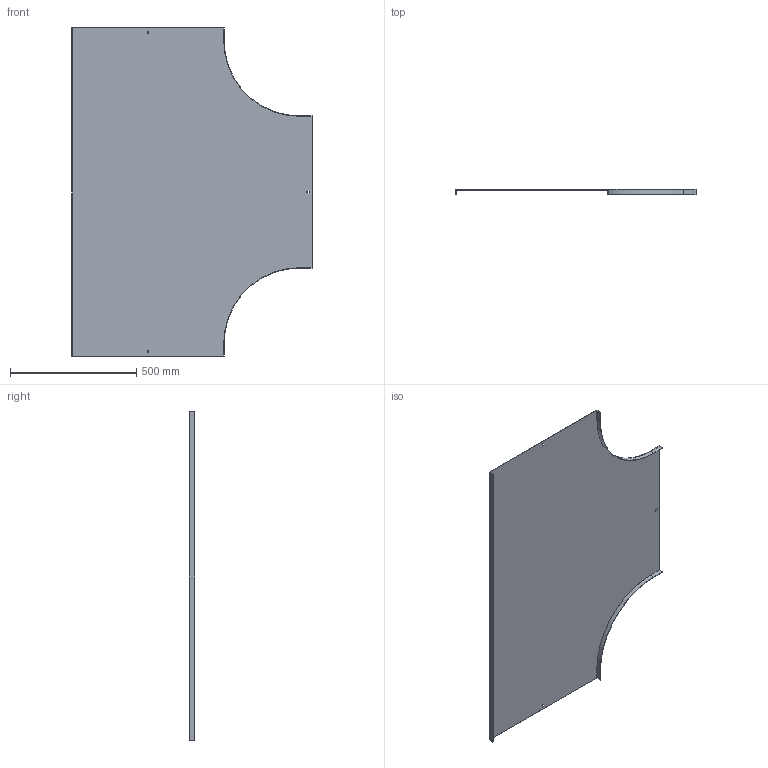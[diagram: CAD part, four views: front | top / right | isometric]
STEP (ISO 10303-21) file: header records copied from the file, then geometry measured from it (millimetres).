
FILE_DESCRIPTION (( 'STEP AP214' ), '1' );
FILE_NAME ('B2_15N3R600.step', '2025-02-21T12:07:14', ( '' ), ( '' ), 'SwSTEP 2.0', 'SolidWorks 2023', '' );
FILE_SCHEMA (( 'AUTOMOTIVE_DESIGN' ));
Length unit declared in the file: millimetre
Products named in the file (1): B2_15N3R600
Bounding box: 951.5 x 20 x 1300 mm (x, y, z)
Volume: 1615882.9 mm3; surface area: 2161186.7 mm2
Topology: 1 solids, 1 shells, 34 faces, 96 edges, 64 vertices
Faces by surface type: plane 30, cylinder 4
Entity records: 1123 total; most frequent: CARTESIAN_POINT 195, ORIENTED_EDGE 192, DIRECTION 174, EDGE_CURVE 96, LINE 88, VECTOR 88, VERTEX_POINT 64, AXIS2_PLACEMENT_3D 43
